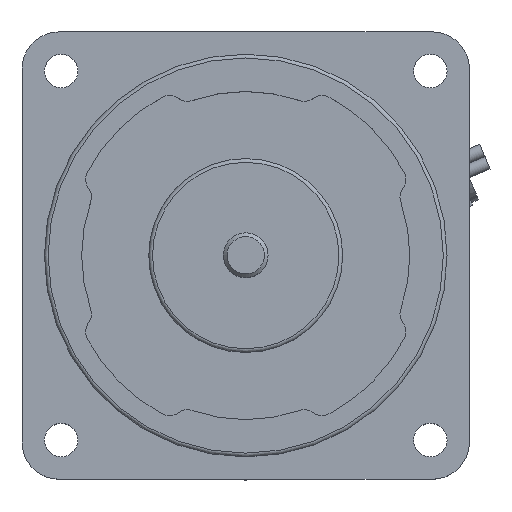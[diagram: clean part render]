
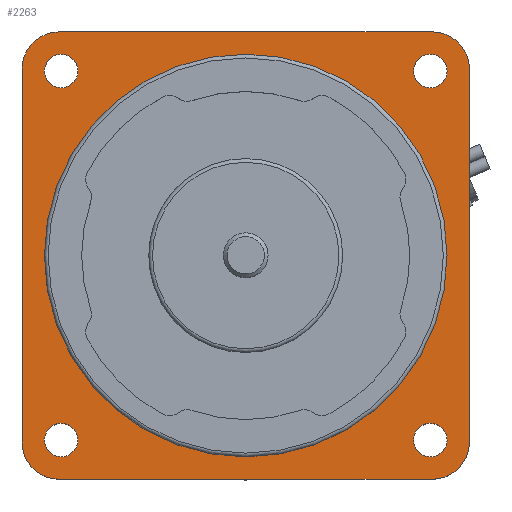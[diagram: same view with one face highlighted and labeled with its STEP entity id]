
A CAD part, top view. The second image highlights one B-rep face of the part: STEP entity #2263.
In plain terms, the highlighted planar face has unit normal (0, 0, 1).
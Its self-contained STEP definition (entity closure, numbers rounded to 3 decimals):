
#997=CARTESIAN_POINT('',(-22.499,24.749,85.0));
#998=VERTEX_POINT('',#997);
#999=CARTESIAN_POINT('',(-24.749,24.749,85.0));
#1000=DIRECTION('',(0.0,0.0,-1.0));
#1001=DIRECTION('',(-1.0,0.0,0.0));
#1002=AXIS2_PLACEMENT_3D('',#999,#1000,#1001);
#1003=CIRCLE('',#1002,2.25);
#1004=EDGE_CURVE('',#998,#998,#1003,.T.);
#1017=CARTESIAN_POINT('',(-22.499,-24.749,85.0));
#1018=VERTEX_POINT('',#1017);
#1019=CARTESIAN_POINT('',(-24.749,-24.749,85.0));
#1020=DIRECTION('',(0.0,0.0,-1.0));
#1021=DIRECTION('',(-1.0,0.0,0.0));
#1022=AXIS2_PLACEMENT_3D('',#1019,#1020,#1021);
#1023=CIRCLE('',#1022,2.25);
#1024=EDGE_CURVE('',#1018,#1018,#1023,.T.);
#1037=CARTESIAN_POINT('',(26.999,-24.749,85.0));
#1038=VERTEX_POINT('',#1037);
#1039=CARTESIAN_POINT('',(24.749,-24.749,85.0));
#1040=DIRECTION('',(0.0,0.0,-1.0));
#1041=DIRECTION('',(-1.0,0.0,0.0));
#1042=AXIS2_PLACEMENT_3D('',#1039,#1040,#1041);
#1043=CIRCLE('',#1042,2.25);
#1044=EDGE_CURVE('',#1038,#1038,#1043,.T.);
#1057=CARTESIAN_POINT('',(26.999,24.749,85.0));
#1058=VERTEX_POINT('',#1057);
#1059=CARTESIAN_POINT('',(24.749,24.749,85.0));
#1060=DIRECTION('',(0.0,0.0,-1.0));
#1061=DIRECTION('',(-1.0,0.0,0.0));
#1062=AXIS2_PLACEMENT_3D('',#1059,#1060,#1061);
#1063=CIRCLE('',#1062,2.25);
#1064=EDGE_CURVE('',#1058,#1058,#1063,.T.);
#1331=CARTESIAN_POINT('',(27.0,0.,85.0));
#1332=VERTEX_POINT('',#1331);
#1333=CARTESIAN_POINT('',(0.0,0.0,85.0));
#1334=DIRECTION('',(0.0,0.0,-1.0));
#1335=DIRECTION('',(-1.0,0.0,0.0));
#1336=AXIS2_PLACEMENT_3D('',#1333,#1334,#1335);
#1337=CIRCLE('',#1336,27.0);
#1338=EDGE_CURVE('',#1332,#1332,#1337,.T.);
#2173=CARTESIAN_POINT('',(0.0,0.0,85.0));
#2174=DIRECTION('',(0.0,0.0,-1.0));
#2175=DIRECTION('',(-1.0,0.0,0.0));
#2176=AXIS2_PLACEMENT_3D('',#2173,#2174,#2175);
#2177=PLANE('',#2176);
#2178=CARTESIAN_POINT('',(25.0,30.0,85.0));
#2179=VERTEX_POINT('',#2178);
#2180=CARTESIAN_POINT('',(-25.0,30.0,85.0));
#2181=VERTEX_POINT('',#2180);
#2182=CARTESIAN_POINT('',(25.0,30.0,85.0));
#2183=DIRECTION('',(-1.0,0.0,0.0));
#2184=VECTOR('',#2183,50.0);
#2185=LINE('',#2182,#2184);
#2186=EDGE_CURVE('',#2179,#2181,#2185,.T.);
#2187=ORIENTED_EDGE('',*,*,#2186,.T.);
#2188=CARTESIAN_POINT('',(-30.0,25.0,85.0));
#2189=VERTEX_POINT('',#2188);
#2190=CARTESIAN_POINT('',(-25.,25.,85.0));
#2191=DIRECTION('',(0.0,0.0,1.0));
#2192=DIRECTION('',(0.0,1.0,0.0));
#2193=AXIS2_PLACEMENT_3D('',#2190,#2191,#2192);
#2194=CIRCLE('',#2193,5.);
#2195=EDGE_CURVE('',#2181,#2189,#2194,.T.);
#2196=ORIENTED_EDGE('',*,*,#2195,.T.);
#2197=CARTESIAN_POINT('',(-30.0,-25.0,85.0));
#2198=VERTEX_POINT('',#2197);
#2199=CARTESIAN_POINT('',(-30.0,25.0,85.0));
#2200=DIRECTION('',(0.0,-1.0,0.0));
#2201=VECTOR('',#2200,50.0);
#2202=LINE('',#2199,#2201);
#2203=EDGE_CURVE('',#2189,#2198,#2202,.T.);
#2204=ORIENTED_EDGE('',*,*,#2203,.T.);
#2205=CARTESIAN_POINT('',(-25.0,-30.0,85.0));
#2206=VERTEX_POINT('',#2205);
#2207=CARTESIAN_POINT('',(-25.,-25.,85.0));
#2208=DIRECTION('',(0.0,0.0,1.0));
#2209=DIRECTION('',(-1.0,0.0,0.0));
#2210=AXIS2_PLACEMENT_3D('',#2207,#2208,#2209);
#2211=CIRCLE('',#2210,5.);
#2212=EDGE_CURVE('',#2198,#2206,#2211,.T.);
#2213=ORIENTED_EDGE('',*,*,#2212,.T.);
#2214=CARTESIAN_POINT('',(25.0,-30.0,85.0));
#2215=VERTEX_POINT('',#2214);
#2216=CARTESIAN_POINT('',(-25.0,-30.0,85.0));
#2217=DIRECTION('',(1.0,0.0,0.0));
#2218=VECTOR('',#2217,50.0);
#2219=LINE('',#2216,#2218);
#2220=EDGE_CURVE('',#2206,#2215,#2219,.T.);
#2221=ORIENTED_EDGE('',*,*,#2220,.T.);
#2222=CARTESIAN_POINT('',(30.0,-25.0,85.0));
#2223=VERTEX_POINT('',#2222);
#2224=CARTESIAN_POINT('',(25.,-25.,85.0));
#2225=DIRECTION('',(0.0,0.0,1.0));
#2226=DIRECTION('',(0.0,-1.0,0.0));
#2227=AXIS2_PLACEMENT_3D('',#2224,#2225,#2226);
#2228=CIRCLE('',#2227,5.);
#2229=EDGE_CURVE('',#2215,#2223,#2228,.T.);
#2230=ORIENTED_EDGE('',*,*,#2229,.T.);
#2231=CARTESIAN_POINT('',(30.0,25.0,85.0));
#2232=VERTEX_POINT('',#2231);
#2233=CARTESIAN_POINT('',(30.0,-25.0,85.0));
#2234=DIRECTION('',(0.0,1.0,0.0));
#2235=VECTOR('',#2234,50.0);
#2236=LINE('',#2233,#2235);
#2237=EDGE_CURVE('',#2223,#2232,#2236,.T.);
#2238=ORIENTED_EDGE('',*,*,#2237,.T.);
#2239=CARTESIAN_POINT('',(25.,25.,85.0));
#2240=DIRECTION('',(0.0,0.0,1.0));
#2241=DIRECTION('',(1.0,0.0,0.0));
#2242=AXIS2_PLACEMENT_3D('',#2239,#2240,#2241);
#2243=CIRCLE('',#2242,5.);
#2244=EDGE_CURVE('',#2232,#2179,#2243,.T.);
#2245=ORIENTED_EDGE('',*,*,#2244,.T.);
#2246=EDGE_LOOP('',(#2187,#2196,#2204,#2213,#2221,#2230,#2238,#2245));
#2247=FACE_OUTER_BOUND('',#2246,.T.);
#2248=ORIENTED_EDGE('',*,*,#1004,.T.);
#2249=EDGE_LOOP('',(#2248));
#2250=FACE_BOUND('',#2249,.T.);
#2251=ORIENTED_EDGE('',*,*,#1024,.T.);
#2252=EDGE_LOOP('',(#2251));
#2253=FACE_BOUND('',#2252,.T.);
#2254=ORIENTED_EDGE('',*,*,#1044,.T.);
#2255=EDGE_LOOP('',(#2254));
#2256=FACE_BOUND('',#2255,.T.);
#2257=ORIENTED_EDGE('',*,*,#1064,.T.);
#2258=EDGE_LOOP('',(#2257));
#2259=FACE_BOUND('',#2258,.T.);
#2260=ORIENTED_EDGE('',*,*,#1338,.T.);
#2261=EDGE_LOOP('',(#2260));
#2262=FACE_BOUND('',#2261,.T.);
#2263=ADVANCED_FACE('',(#2247,#2250,#2253,#2256,#2259,#2262),#2177,.F.);
